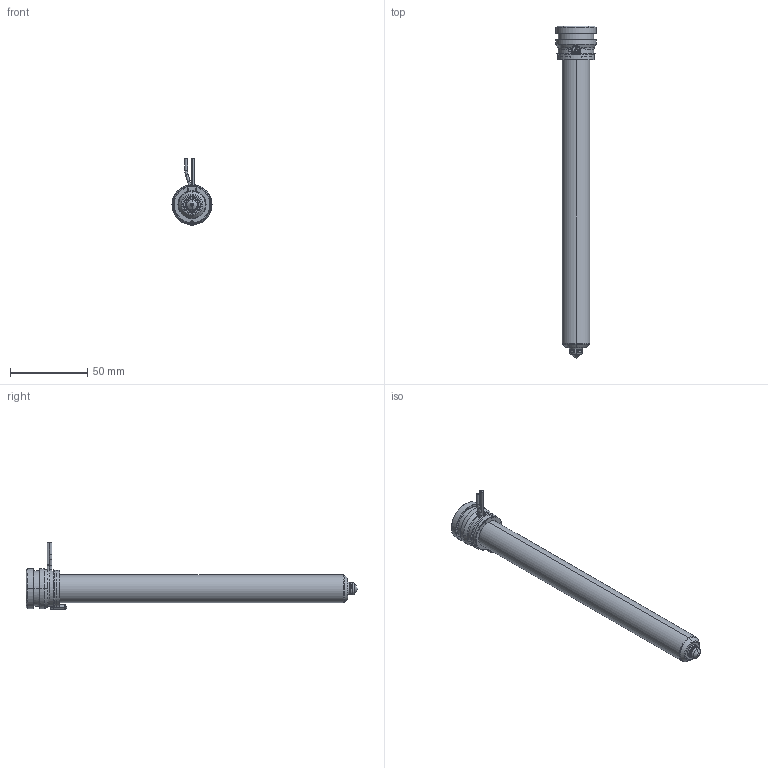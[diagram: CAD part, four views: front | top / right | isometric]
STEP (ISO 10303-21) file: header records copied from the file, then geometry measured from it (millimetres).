
FILE_DESCRIPTION((''),'2;1');
FILE_NAME('MPN-08-24-TX8-196-A','2026-02-05T11:55:35',('UPTIO'),('Thermoplay S.p.A.'),'CREO PARAMETRIC BY PTC INC, 2023494','CREO PARAMETRIC BY PTC INC, 2023494','');
FILE_SCHEMA(('CONFIG_CONTROL_DESIGN','SHAPE_APPEARANCE_LAYERS_GROUPS'));
Length unit declared in the file: millimetre
Products named in the file (1): MPN-08-24-TX8-196-A
Bounding box: 26 x 215.5 x 43.5 mm (x, y, z)
Volume: 39744.2 mm3; surface area: 52356 mm2
Topology: 2 solids, 3 shells, 548 faces, 1458 edges, 904 vertices
Faces by surface type: cylinder 180, plane 144, bspline 82, torus 64, cone 60, sphere 12, extrusion 6
Entity records: 29960 total; most frequent: CARTESIAN_POINT 13614, ORIENTED_EDGE 2896, DIRECTION 2574, EDGE_CURVE 1448, AXIS2_PLACEMENT_3D 1006, VERTEX_POINT 904, EDGE_LOOP 576, VECTOR 562
